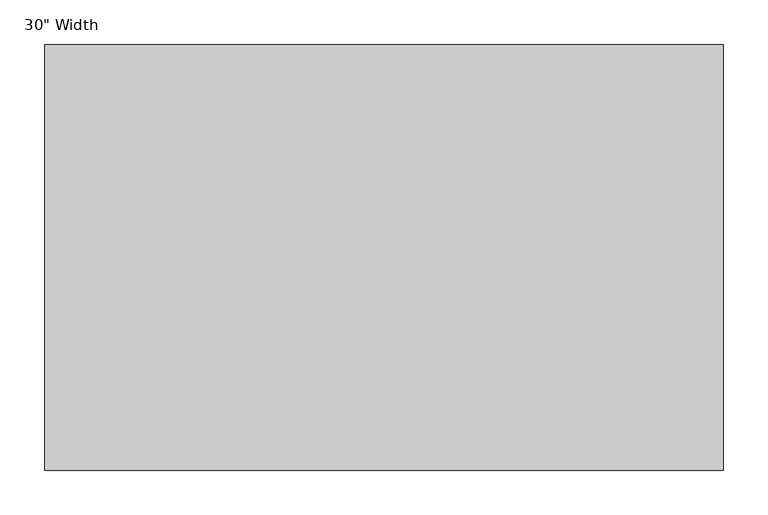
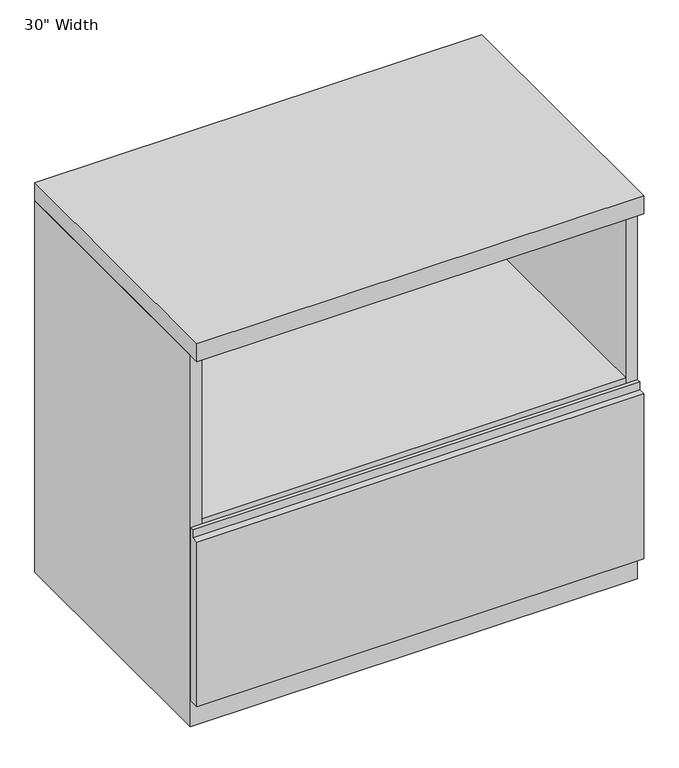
"""IFC4 building model written with IfcOpenShell, lengths in millimetres: furniture geometry."""

from ifc_helpers import new_model, si_unit, frame, origin, place, context, project, spatial, polyline, outline, extrude, faceted_brep, source, transform, mapped, element, save


def furniture_efd685cc(model_context):
    return source(origin(), model_context, "Body", "SolidModel", [
        extrude(outline(polyline([(-457.2, 47.625), (-476.25, 47.625), (-476.25, 342.9), (-463.55, 342.9), (-463.55, 357.1875), (-457.2, 357.1875), (-457.2, 47.625)])), frame((-379.4125, 0.0, 0.0), z_axis=(1.0, 0.0, 0.0), x_axis=(0.0, 1.0, 0.0)), (0.0, 0.0, 1.0), 758.825),
        faceted_brep([(379.4125, 0.0, 666.75), (-379.4125, 0.0, 666.75), (-379.4125, -457.2, 666.75), (-360.3625, -457.2, 666.75), (-360.3625, -19.05, 666.75), (360.3625, -19.05, 666.75), (360.3625, -457.2, 666.75), (379.4125, -457.2, 666.75), (379.4125, 0.0, 0.0), (-379.4125, 0.0, 0.0), (-379.4125, -457.2, 0.0), (379.4125, -457.2, 0.0), (360.3625, -457.2, 47.625), (-360.3625, -457.2, 47.625), (-360.3625, -19.05, 47.625), (360.3625, -19.05, 47.625)], [[[0, 1, 2, 3, 4, 5, 6, 7]], [[1, 0, 8, 9]], [[2, 1, 9, 10]], [[8, 0, 7, 11]], [[3, 2, 10, 11, 7, 6, 12, 13]], [[4, 3, 13, 14]], [[5, 4, 14, 15]], [[6, 5, 15, 12]], [[13, 12, 15, 14]], [[8, 11, 10, 9]]]),
        extrude(outline(polyline([(360.3625, -19.05), (360.3625, -457.2), (-360.3625, -457.2), (-360.3625, -19.05), (360.3625, -19.05)])), frame((0.0, 0.0, 347.6625), z_axis=(0.0, 0.0, 1.0), x_axis=(1.0, 0.0, 0.0)), (0.0, 0.0, 1.0), 19.05),
        extrude(outline(polyline([(379.4125, 0.0), (379.4125, -476.25), (-379.4125, -476.25), (-379.4125, 0.0), (379.4125, 0.0)])), frame((0.0, 0.0, 666.75), z_axis=(0.0, 0.0, 1.0), x_axis=(1.0, 0.0, 0.0)), (0.0, 0.0, 1.0), 31.75),
    ])


if __name__ == "__main__":
    model = new_model("IFC4")
    model_context = context("Model", 3, world=origin())
    ifc_project = project(units=[si_unit("LENGTHUNIT", "METRE", prefix="MILLI")], contexts=[model_context])
    site = spatial("IfcSite", under=ifc_project)
    building = spatial("IfcBuilding", under=site)
    placement = place(None, origin())
    furniture_shape = furniture_efd685cc(model_context)
    element("IfcFurniture", 1, ObjectType="Haworth_XSeries-Combo-Open_Shelf : 30\" Width", at=placement, inside=building, context=model_context, shape_type="MappedRepresentation", body=[
        mapped(furniture_shape, transform((0.0, 0.0, 0.0), x_axis=(1.0, 0.0, 0.0), y_axis=(0.0, 1.0, 0.0), z_axis=(0.0, 0.0, 1.0))),
    ])
    save(model, "model.ifc")
